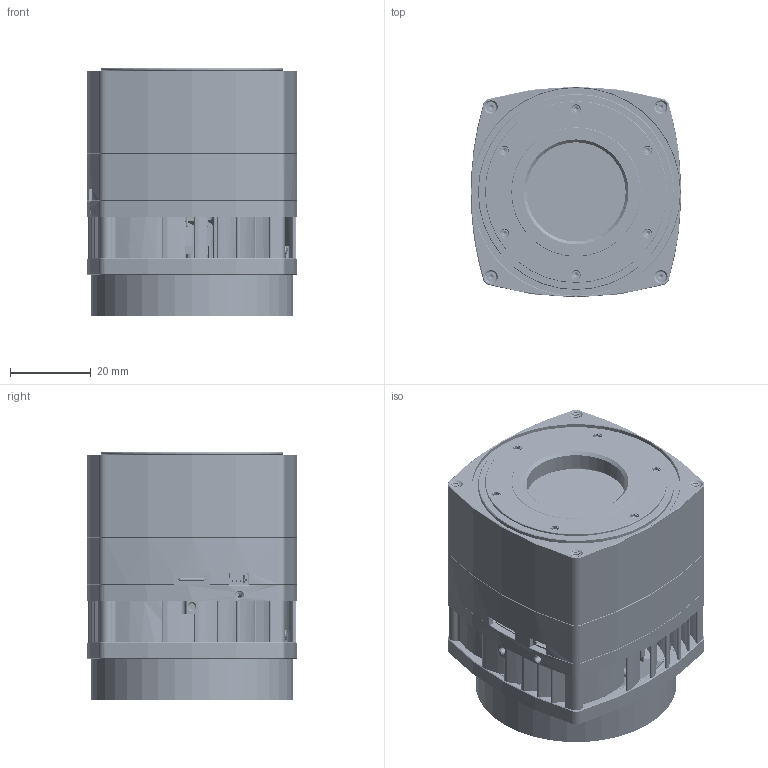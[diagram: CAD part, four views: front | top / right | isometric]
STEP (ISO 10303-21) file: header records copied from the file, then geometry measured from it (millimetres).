
FILE_DESCRIPTION(/* description */ (''),/* implementation_level */ '2;1');
FILE_NAME(/* name */ 'STP-MJ-(MJ042MR-GP-P11-BSI)-Cmount.stp',/* time_stamp */ '2021-09-22T17:07:39+02:00',/* author */ (''),/* organization */ (''),/* preprocessor_version */ 'ST-DEVELOPER v16.7',/* originating_system */ 'SIEMENS PLM Software NX 1907',/* authorisation */ '');
FILE_SCHEMA (('AUTOMOTIVE_DESIGN { 1 0 10303 214 3 1 1 1 }'));
Products named in the file (34): DF40C-60DP_stp; SROB-M1.6X5-CSK-TX-CUST; MECH-MJ-52MM-CMOUNT-B; CONN-815-22-004-30-001101; DF40HC_4.0_-60DS_stp; SM03B-SRSS-TB_step; 1054500101_stp; Board-CM-U3-PCA; R-32207615; MJ-52MM-FAN-50X15MM-CUST1; CONN-319-10-104-CUT; SROB-M1.6X20-CSK-TX-STNLS; MECH-MJ-52MM-COOL-CVR; MECH-MJ-52MM-COOL-HTS; MECH-MJ042-INC2; GSENSE400BSI-NG; FOIL-IND-20X20X0.1MM; MECH-LIGHTPIPE-1X2.5MM-CUST; DF40-60-EXT-1.5MM-PCA; PELT-3MD10-291-0805AN; TP-11X11X0.08-TPCM580; PCB-MJ-PLT; SROB-M1.6X3-CSK-TX-STNLS; SROB-M1.6X6-CUST-R-PEEK; SROB-M1.6X6-CUST-PEEK; SROB-M1.6X12-CSK-TX-CUST; MECH-MJ-52MM-MID-CU; FLT-SPH-AR2X-D35X1; MECH-MJ-52MM-FRONT-STNLS; CM400-PCA_MODEL; LA-MJ-C-MOUNT-B; CM-U3-PCA; MJ-52MM-COOL-SUBASSM; MJ042MR-GP-P11-B-MAIN-SUBA
Assembly tree (52 placements, depth 3):
  MJ042MR-GP-P11-B-MAIN-SUBA
    MECH-MJ-52MM-FRONT-STNLS
    FLT-SPH-AR2X-D35X1
    MECH-MJ-52MM-MID-CU
    MJ-52MM-COOL-SUBASSM
      MECH-MJ-52MM-COOL-HTS
      MECH-MJ-52MM-COOL-CVR
      SROB-M1.6X20-CSK-TX-STNLS  x4
      CONN-319-10-104-CUT
      MJ-52MM-FAN-50X15MM-CUST1
      R-32207615
    SROB-M1.6X12-CSK-TX-CUST  x4
    SROB-M1.6X6-CUST-PEEK  x2
    SROB-M1.6X6-CUST-R-PEEK  x2
    CM-U3-PCA
      Board-CM-U3-PCA
      1054500101_stp
      SM03B-SRSS-TB_step
      DF40HC_4.0_-60DS_stp
      CONN-815-22-004-30-001101
    SROB-M1.6X3-CSK-TX-STNLS  x4
    PCB-MJ-PLT
    TP-11X11X0.08-TPCM580  x2
    LA-MJ-C-MOUNT-B
      MECH-MJ-52MM-CMOUNT-B
      SROB-M1.6X5-CSK-TX-CUST  x6
    PELT-3MD10-291-0805AN
    DF40-60-EXT-1.5MM-PCA
    MECH-LIGHTPIPE-1X2.5MM-CUST  x3
    FOIL-IND-20X20X0.1MM
    GSENSE400BSI-NG
    MECH-MJ042-INC2
    CM400-PCA_MODEL
      DF40C-60DP_stp
Bounding box: 52.1 x 52.1 x 61.49 mm (x, y, z)
Volume: 72295.2 mm3; surface area: 80020 mm2
Topology: 177 solids, 180 shells, 10815 faces, 28959 edges, 18944 vertices
Faces by surface type: plane 6511, cylinder 2990, cone 742, bspline 446, torus 92, sphere 20, extrusion 14
Full cylindrical faces by diameter (mm): 0.4 x6, 0.46 x115, 0.5 x120, 0.76 x115, 0.8 x12, 1 x3, 1.25 x2, 1.3 x10, 1.6 x56, 1.9 x8, 2.1 x6, 2.5 x64, 2.9 x4, 2.95 x8, 3.2 x4, 18 x1, 24.57 x1, 33.8 x1, 34.1 x1, 35 x1, 35.04 x1, 36 x1, 36.2 x1, 39.2 x1, 42.8 x1, 45 x1, 47.8 x1, 48.5 x1, 49.85 x1, 51.5 x1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
Entity records: 416628 total; most frequent: CARTESIAN_POINT 155416, ORIENTED_EDGE 53968, DIRECTION 51236, EDGE_CURVE 26984, VECTOR 18804, LINE 18790, VERTEX_POINT 18001, AXIS2_PLACEMENT_3D 16216
